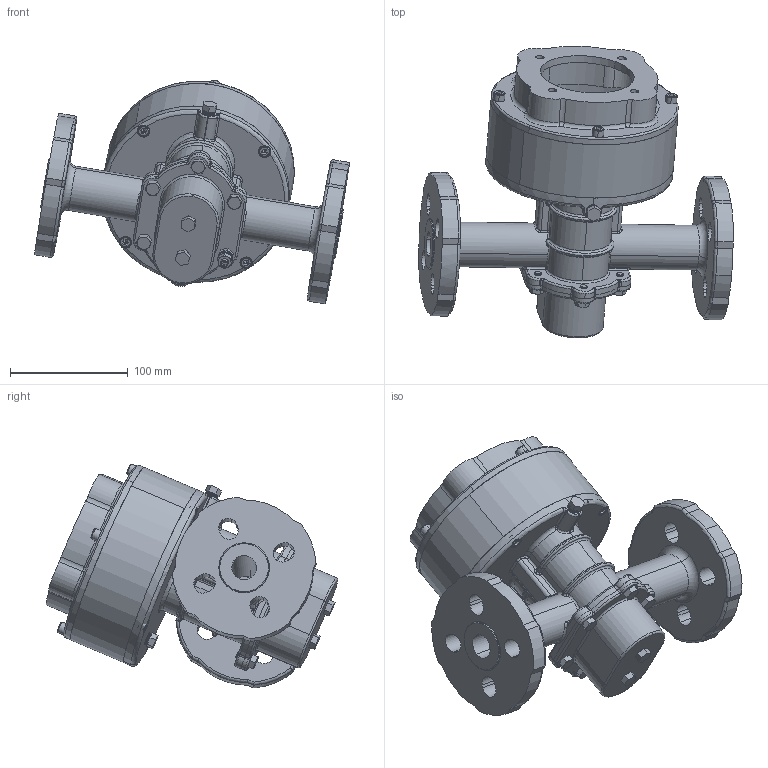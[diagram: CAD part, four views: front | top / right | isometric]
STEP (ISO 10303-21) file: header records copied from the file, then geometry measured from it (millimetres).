
FILE_DESCRIPTION (( 'STEP AP214' ), '1' );
FILE_NAME ('E25M FLNG IEC80 NO MTR.STEP', '2025-07-11T14:24:28', ( '' ), ( '' ), 'SwSTEP 2.0', 'SolidWorks 2024', '' );
FILE_SCHEMA (( 'AUTOMOTIVE_DESIGN' ));
Length unit declared in the file: inch
Products named in the file (12): socket head cap screw_ai_HX-SHCS 0.25-28x0.625x0.625-N; hex bolt_ai_HBOLT 0.2500-28x0.5x0.5-N; NG040059_MACHINE; 49727_machined; external tooth lock washer_ai_ASME B18.21.1 - 0.256; NG020017_MACHINE; hex nut_ai_HNUT 0.2500-28-D-N; socket set screw cup point_ai_SSCUPSKT 0.25-28x1.5-HX-N; W772565_4452K541; E25M FLNG IEC80 NO MTR; flat washer type b narrow_ai_Narrow FW 0.25; 49610
Assembly tree (28 placements, depth 2):
  E25M FLNG IEC80 NO MTR
    NG040059_MACHINE
    49610
    49727_machined
    NG020017_MACHINE
    W772565_4452K541  x4
    socket set screw cup point_ai_SSCUPSKT 0.25-28x1.5-HX-N
    hex nut_ai_HNUT 0.2500-28-D-N  x2
    external tooth lock washer_ai_ASME B18.21.1 - 0.256  x2
    flat washer type b narrow_ai_Narrow FW 0.25  x2
    hex bolt_ai_HBOLT 0.2500-28x0.5x0.5-N  x5
    socket head cap screw_ai_HX-SHCS 0.25-28x0.625x0.625-N  x8
Bounding box: 267.68 x 247.81 x 190.3 mm (x, y, z)
Volume: 1248238.5 mm3; surface area: 353931.3 mm2
Topology: 28 solids, 28 shells, 1650 faces, 4409 edges, 2801 vertices
Faces by surface type: cylinder 541, plane 429, torus 293, cone 289, bspline 56, sphere 42
Entity records: 43279 total; most frequent: CARTESIAN_POINT 13925, DIRECTION 6528, ORIENTED_EDGE 5918, EDGE_CURVE 2959, AXIS2_PLACEMENT_3D 2778, VERTEX_POINT 1831, CIRCLE 1615, EDGE_LOOP 1302
